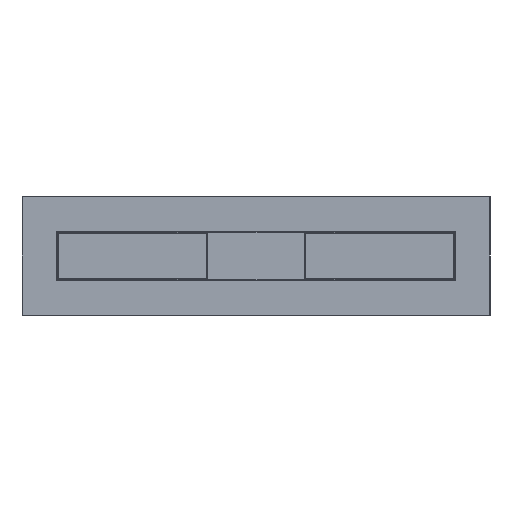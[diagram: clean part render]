
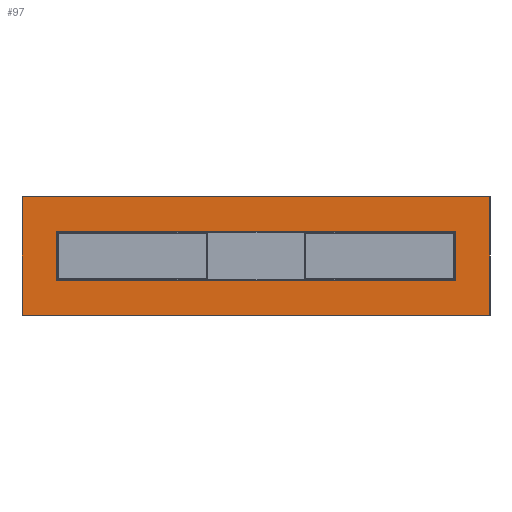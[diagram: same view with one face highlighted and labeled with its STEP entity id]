
A CAD part, left-side view. The second image highlights one B-rep face of the part: STEP entity #97.
In plain terms, the highlighted planar face has unit normal (-1, 0, 0).
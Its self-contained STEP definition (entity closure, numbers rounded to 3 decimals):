
#97 = ADVANCED_FACE('',(#98,#132),#166,.F.);
#98 = FACE_BOUND('',#99,.T.);
#99 = EDGE_LOOP('',(#100,#110,#118,#126));
#100 = ORIENTED_EDGE('',*,*,#101,.T.);
#101 = EDGE_CURVE('',#102,#104,#106,.T.);
#102 = VERTEX_POINT('',#103);
#103 = CARTESIAN_POINT('',(-23.5,-6.4,0.8));
#104 = VERTEX_POINT('',#105);
#105 = CARTESIAN_POINT('',(-23.5,-6.4,-0.8));
#106 = LINE('',#107,#108);
#107 = CARTESIAN_POINT('',(-23.5,-6.4,-0.8));
#108 = VECTOR('',#109,1.);
#109 = DIRECTION('',(0.,0.,-1.));
#110 = ORIENTED_EDGE('',*,*,#111,.T.);
#111 = EDGE_CURVE('',#104,#112,#114,.T.);
#112 = VERTEX_POINT('',#113);
#113 = CARTESIAN_POINT('',(-23.5,6.4,-0.8));
#114 = LINE('',#115,#116);
#115 = CARTESIAN_POINT('',(-23.5,6.4,-0.8));
#116 = VECTOR('',#117,1.);
#117 = DIRECTION('',(0.,1.,0.));
#118 = ORIENTED_EDGE('',*,*,#119,.T.);
#119 = EDGE_CURVE('',#112,#120,#122,.T.);
#120 = VERTEX_POINT('',#121);
#121 = CARTESIAN_POINT('',(-23.5,6.4,0.8));
#122 = LINE('',#123,#124);
#123 = CARTESIAN_POINT('',(-23.5,6.4,0.8));
#124 = VECTOR('',#125,1.);
#125 = DIRECTION('',(0.,0.,1.));
#126 = ORIENTED_EDGE('',*,*,#127,.T.);
#127 = EDGE_CURVE('',#120,#102,#128,.T.);
#128 = LINE('',#129,#130);
#129 = CARTESIAN_POINT('',(-23.5,1.5,0.8));
#130 = VECTOR('',#131,1.);
#131 = DIRECTION('',(0.,-1.,0.));
#132 = FACE_BOUND('',#133,.T.);
#133 = EDGE_LOOP('',(#134,#144,#152,#160));
#134 = ORIENTED_EDGE('',*,*,#135,.T.);
#135 = EDGE_CURVE('',#136,#138,#140,.T.);
#136 = VERTEX_POINT('',#137);
#137 = CARTESIAN_POINT('',(-23.5,7.5,-1.9));
#138 = VERTEX_POINT('',#139);
#139 = CARTESIAN_POINT('',(-23.5,-7.5,-1.9));
#140 = LINE('',#141,#142);
#141 = CARTESIAN_POINT('',(-23.5,7.5,-1.9));
#142 = VECTOR('',#143,1.);
#143 = DIRECTION('',(0.,-1.,0.));
#144 = ORIENTED_EDGE('',*,*,#145,.F.);
#145 = EDGE_CURVE('',#146,#138,#148,.T.);
#146 = VERTEX_POINT('',#147);
#147 = CARTESIAN_POINT('',(-23.5,-7.5,1.9));
#148 = LINE('',#149,#150);
#149 = CARTESIAN_POINT('',(-23.5,-7.5,1.9));
#150 = VECTOR('',#151,1.);
#151 = DIRECTION('',(-0.,-0.,-1.));
#152 = ORIENTED_EDGE('',*,*,#153,.F.);
#153 = EDGE_CURVE('',#154,#146,#156,.T.);
#154 = VERTEX_POINT('',#155);
#155 = CARTESIAN_POINT('',(-23.5,7.5,1.9));
#156 = LINE('',#157,#158);
#157 = CARTESIAN_POINT('',(-23.5,7.5,1.9));
#158 = VECTOR('',#159,1.);
#159 = DIRECTION('',(0.,-1.,0.));
#160 = ORIENTED_EDGE('',*,*,#161,.T.);
#161 = EDGE_CURVE('',#154,#136,#162,.T.);
#162 = LINE('',#163,#164);
#163 = CARTESIAN_POINT('',(-23.5,7.5,1.9));
#164 = VECTOR('',#165,1.);
#165 = DIRECTION('',(-0.,-0.,-1.));
#166 = PLANE('',#167);
#167 = AXIS2_PLACEMENT_3D('',#168,#169,#170);
#168 = CARTESIAN_POINT('',(-23.5,7.5,1.9));
#169 = DIRECTION('',(1.,0.,-0.));
#170 = DIRECTION('',(-0.,0.,-1.));
